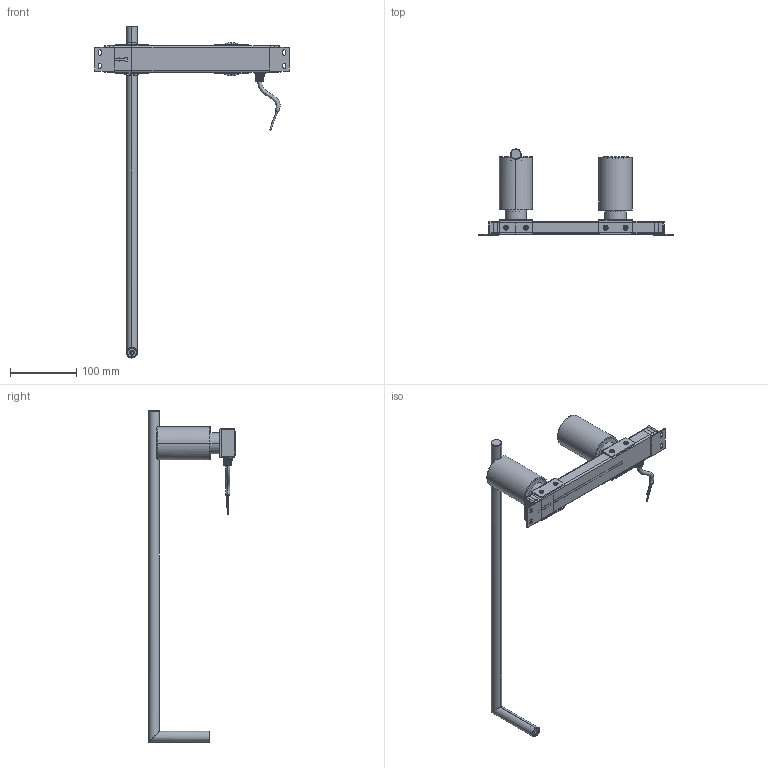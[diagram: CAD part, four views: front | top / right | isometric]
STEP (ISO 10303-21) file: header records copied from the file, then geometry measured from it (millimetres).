
FILE_DESCRIPTION((''),'2;1');
FILE_NAME('5000001_ASM','2025-07-03T16:42:26',('PC'),(''),'CREO PARAMETRIC BY PTC INC, 2019010','CREO PARAMETRIC BY PTC INC, 2019010','');
FILE_SCHEMA(('CONFIG_CONTROL_DESIGN'));
Length unit declared in the file: millimetre
Products named in the file (22): 0001; 0002; U0001; U0002; 1-BB1_3; M4X6100; M4X60001; 00; 0004; M5X1200; 500000; 160001; 000; 0006; 31000; 0007; 20001; 0008; 1-0001; 0009; 30001; 5000001_ASM
Assembly tree (37 placements, depth 2):
  5000001_ASM
    0001
    0002
    U0001  x2
    U0002
    1-BB1_3
    M4X6100  x4
    M4X60001  x4
    00  x2
    0004  x2
    M5X1200  x8
    500000
    160001
    000
    0006
    31000
    0007
    20001
    0008
    1-0001
    0009
    30001
Bounding box: 293.08 x 130.21 x 500 mm (x, y, z)
Volume: 225937.2 mm3; surface area: 255515.2 mm2
Topology: 47 solids, 52 shells, 2576 faces, 6971 edges, 4532 vertices
Faces by surface type: plane 1208, cylinder 839, bspline 302, cone 193, torus 26, revolution 8
Entity records: 79087 total; most frequent: CARTESIAN_POINT 34272, ORIENTED_EDGE 9710, DIRECTION 8437, EDGE_CURVE 4859, VERTEX_POINT 3176, VECTOR 3043, LINE 3043, AXIS2_PLACEMENT_3D 2693
